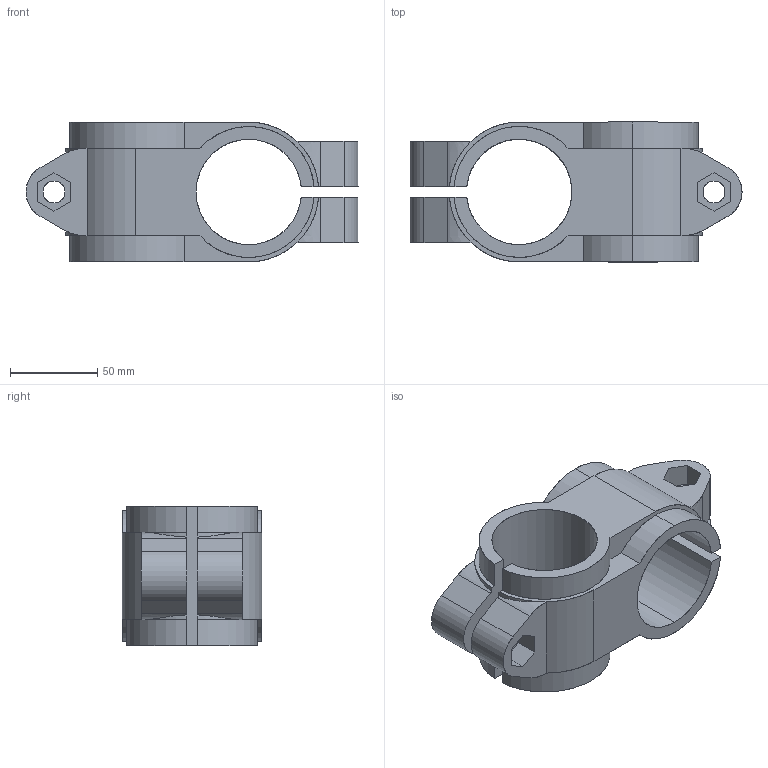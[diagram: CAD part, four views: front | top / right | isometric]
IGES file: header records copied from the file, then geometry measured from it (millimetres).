
Start section: SolidWorks IGES file using analytic representation for surfaces
Global section: file name: R:\Inventor\Kundmodeller Solidworks\Fästen\Angle bracket 041J004326.IGS; native system: SolidWorks 2008; preprocessor: SolidWorks 2008; author: Johan; date: 091015.081858; units: millimetre
Bounding box: 190 x 80 x 80 mm (x, y, z)
Surface area: 85245.9 mm2 (no closed solid volume)
Topology: 0 solids, 0 shells, 107 faces, 1788 edges, 1788 vertices
Faces by surface type: bspline 57, revolution 50
